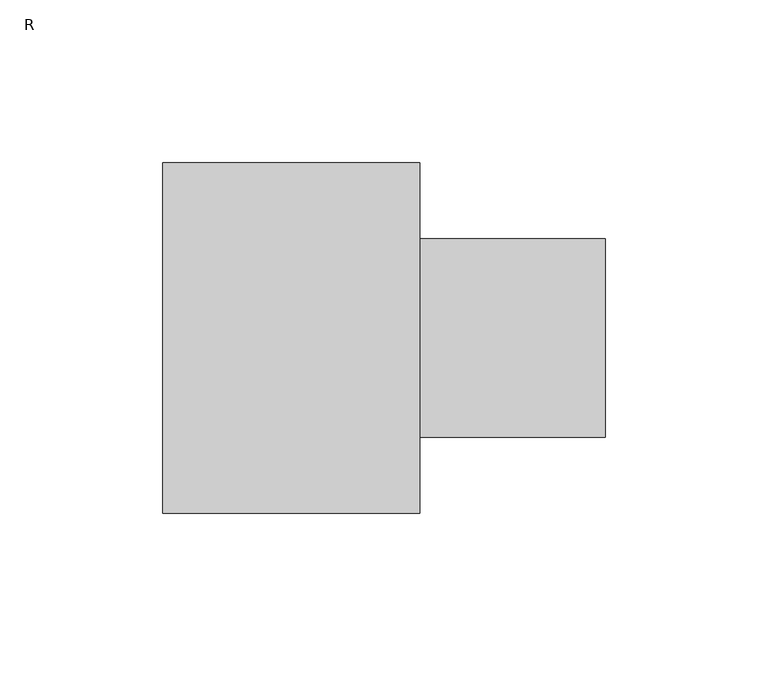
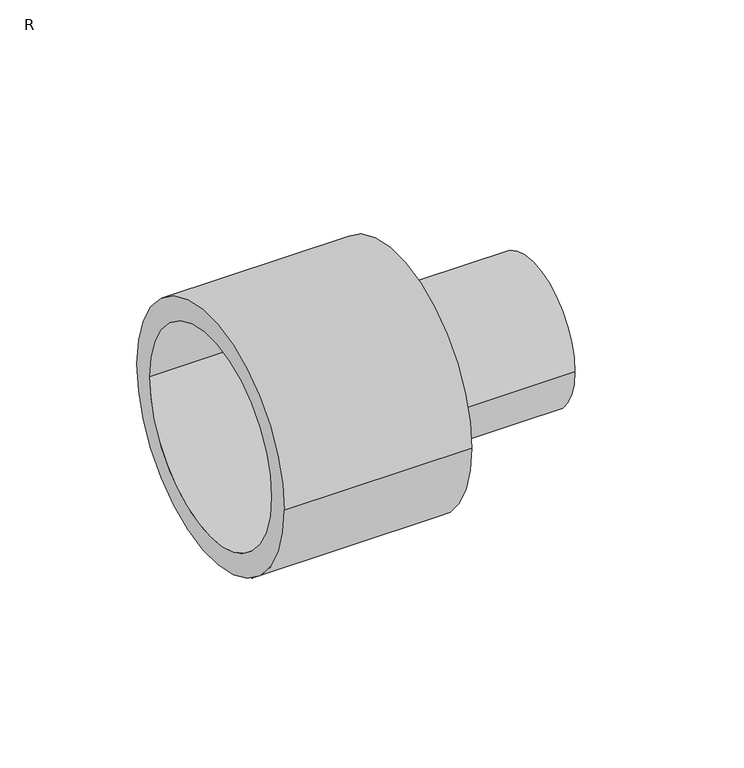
"""IFC4 building model written with IfcOpenShell, lengths in millimetres: pipe fitting geometry, FUSAPEX reducer : R."""

import ifcopenshell
import ifcopenshell.guid

model = None  # the IFC model being written
_history = None  # IfcOwnerHistory: only IFC2X3 demands one
_inside = {}  # id of a spatial element -> (the spatial element, [elements in it])
_under = {}  # id of a project, library or spatial element -> (it, [spatial elements below it])
_declared = {}  # id of a project -> (the project, [libraries it declares])
_typed = {}  # id of a type object -> (the type object, [elements of that type])
_made_of = {}  # id of a material, layer set ... -> (it, [elements and type objects made of it])


def new_model(schema):
    """Start an empty IFC model of exactly this schema.

    Asked for "IFC4X3", IfcOpenShell would pick the latest addendum, in which some entities
    have other attributes; the version numbers below select the first issue.
    IFC2X3 requires an IfcOwnerHistory on every rooted entity: one is made here for all.
    """
    global model, _history
    if schema == "IFC4X3":
        model = ifcopenshell.file(schema_version=(4, 3, 0, 0))
    else:
        model = ifcopenshell.file(schema=schema)
    _inside.clear()
    _under.clear()
    _declared.clear()
    _typed.clear()
    _made_of.clear()
    _history = None
    if model.schema == "IFC2X3":
        org = make("IfcOrganization", Name="unknown")
        user = make(
            "IfcPersonAndOrganization",
            ThePerson=make("IfcPerson", FamilyName="unknown"),
            TheOrganization=org,
        )
        app = make(
            "IfcApplication",
            ApplicationDeveloper=org,
            Version="unknown",
            ApplicationFullName="unknown",
            ApplicationIdentifier="unknown",
        )
        _history = make(
            "IfcOwnerHistory",
            OwningUser=user,
            OwningApplication=app,
            ChangeAction="ADDED",
            CreationDate=0,
        )
    return model


def make(cls, **values):
    """One entity of the class cls with the attributes given. An attribute that is None is left unset."""
    return model.create_entity(
        cls, **{name: value for name, value in values.items() if value is not None}
    )


def rooted(cls, **values):
    """An entity with a GlobalId (a new one), such as an element, a storey or a relation."""
    return make(cls, GlobalId=ifcopenshell.guid.new(), OwnerHistory=_history, **values)


def si_unit(unit_type, name, prefix=None):
    """IfcSIUnit, for example si_unit("LENGTHUNIT", "METRE", prefix="MILLI")."""
    return make("IfcSIUnit", UnitType=unit_type, Prefix=prefix, Name=name)


def assignment(units):
    """IfcUnitAssignment: the units of a project."""
    return None if units is None else make("IfcUnitAssignment", Units=units)


def point(xyz):
    """IfcCartesianPoint."""
    return None if xyz is None else make("IfcCartesianPoint", Coordinates=xyz)


def direction(xyz):
    """IfcDirection."""
    return None if xyz is None else make("IfcDirection", DirectionRatios=xyz)


def frame(location, z_axis=None, x_axis=None):
    """IfcAxis2Placement3D, a coordinate frame: its origin and axes. An axis left out is left unset."""
    return make(
        "IfcAxis2Placement3D",
        Location=point(location),
        Axis=direction(z_axis),
        RefDirection=direction(x_axis),
    )


def origin():
    """The frame at (0, 0, 0) with its axes left unset."""
    return frame((0.0, 0.0, 0.0))


def place(relative_to, where):
    """IfcLocalPlacement: puts the frame where relative to a parent placement (None: the world)."""
    return make(
        "IfcLocalPlacement", PlacementRelTo=relative_to, RelativePlacement=where
    )


def context(
    kind, dimensions, precision=None, world=None, true_north=None, identifier=None
):
    """IfcGeometricRepresentationContext, for example the 3D "Model" context."""
    return make(
        "IfcGeometricRepresentationContext",
        ContextIdentifier=identifier,
        ContextType=kind,
        CoordinateSpaceDimension=dimensions,
        Precision=precision,
        WorldCoordinateSystem=world,
        TrueNorth=true_north,
    )


def project(units=None, contexts=None):
    """IfcProject with its units and contexts."""
    return rooted(
        "IfcProject",
        Name="project",
        RepresentationContexts=contexts,
        UnitsInContext=assignment(units),
    )


def spatial(cls, under=None, at=None, **own):
    """A site, building, storey or space (cls), placed at a placement, below another one or the project."""
    s = rooted(cls, ObjectPlacement=at, **own)
    if under is not None:
        _under.setdefault(under.id(), (under, []))[1].append(s)
    return s


def polyline(points):
    """IfcPolyline through the points."""
    return make("IfcPolyline", Points=[point(p) for p in points])


def circle_curve(where, radius):
    """IfcCircle in the frame where."""
    return make("IfcCircle", Position=where, Radius=radius)


def shape(context_of_items, identifier, shape_type, items):
    """IfcShapeRepresentation: the items that make up one representation, for example the "Body"."""
    return make(
        "IfcShapeRepresentation",
        ContextOfItems=context_of_items,
        RepresentationIdentifier=identifier,
        RepresentationType=shape_type,
        Items=items,
    )


def source(mapping_origin, context_of_items, identifier, shape_type, items):
    """IfcRepresentationMap: a shape defined once, which mapped items show again and again."""
    return make(
        "IfcRepresentationMap",
        MappingOrigin=mapping_origin,
        MappedRepresentation=shape(context_of_items, identifier, shape_type, items),
    )


def transform(
    local_origin,
    x_axis=None,
    y_axis=None,
    z_axis=None,
    scale=None,
    scale2=None,
    scale3=None,
    uniform=True,
):
    """IfcCartesianTransformationOperator3D, or its non-uniform kind. x_axis, y_axis, z_axis: its Axis1, 2, 3."""
    if uniform:
        return make(
            "IfcCartesianTransformationOperator3D",
            Axis1=direction(x_axis),
            Axis2=direction(y_axis),
            LocalOrigin=point(local_origin),
            Scale=scale,
            Axis3=direction(z_axis),
        )
    return make(
        "IfcCartesianTransformationOperator3DnonUniform",
        Axis1=direction(x_axis),
        Axis2=direction(y_axis),
        LocalOrigin=point(local_origin),
        Scale=scale,
        Axis3=direction(z_axis),
        Scale2=scale2,
        Scale3=scale3,
    )


def mapped(mapping_source, mapping_target):
    """IfcMappedItem: shows the shape of a source again, moved by a transform."""
    return make(
        "IfcMappedItem", MappingSource=mapping_source, MappingTarget=mapping_target
    )


def made_of(thing, what):
    """Note that an element or type object is made of a material, layer set ...; save() writes the relation."""
    if what is not None:
        _made_of.setdefault(what.id(), (what, []))[1].append(thing)
    return thing


def element(
    cls,
    number,
    at=None,
    inside=None,
    cuts=None,
    type_object=None,
    material=None,
    context=None,
    identifier="Body",
    shape_type=None,
    held_by="IfcProductDefinitionShape",
    body=None,
    shapes=None,
    **own,
):
    """One element of the class cls, such as IfcWall. Its Tag is "e" and its number.

    at: its placement. inside: the storey or other place that contains it. cuts: it is an
    opening in that element (IfcRelVoidsElement). A single representation is given by context,
    identifier, shape_type and body (its items); several are given by shapes. held_by: the class
    of the entity that holds the representations. save() writes the other relations.
    """
    e = rooted(cls, Tag="e%d" % number, ObjectPlacement=at, **own)
    if body is not None:
        shapes = [shape(context, identifier, shape_type, body)]
    if shapes is not None:
        e.Representation = make(held_by, Representations=shapes)
    if inside is not None:
        _inside.setdefault(inside.id(), (inside, []))[1].append(e)
    if cuts is not None:
        rooted(
            "IfcRelVoidsElement", RelatingBuildingElement=cuts, RelatedOpeningElement=e
        )
    if type_object is not None:
        _typed.setdefault(type_object.id(), (type_object, []))[1].append(e)
    return made_of(e, material)


def aggregate(whole, parts):
    """IfcRelAggregates: a whole, such as a stair, and the parts it consists of."""
    return rooted("IfcRelAggregates", RelatingObject=whole, RelatedObjects=parts)


def save(model, path):
    """Write the relations noted so far, then the file.

    IfcRelAggregates (storeys below a building ...), IfcRelContainedInSpatialStructure (elements
    in a storey), IfcRelDefinesByType, IfcRelAssociatesMaterial and IfcRelDeclares: one each for
    every whole, place, type object, material and project.
    """
    for whole, parts in _under.values():
        aggregate(whole, parts)
    for where, things in _inside.values():
        rooted(
            "IfcRelContainedInSpatialStructure",
            RelatedElements=things,
            RelatingStructure=where,
        )
    for kind, things in _typed.values():
        rooted("IfcRelDefinesByType", RelatedObjects=things, RelatingType=kind)
    for what, things in _made_of.values():
        rooted("IfcRelAssociatesMaterial", RelatedObjects=things, RelatingMaterial=what)
    for by, libraries in _declared.values():
        rooted("IfcRelDeclares", RelatingContext=by, RelatedDefinitions=libraries)
    model.write(path)


def plane_surface(at):
    """IfcPlane: the flat surface through the origin of the frame at, square to its z axis."""
    return make("IfcPlane", Position=at)


def cylinder_surface(at, radius):
    """IfcCylindricalSurface: all points at the distance radius from the z axis of the frame at."""
    return make("IfcCylindricalSurface", Position=at, Radius=radius)


def revolved_surface(curve, axis_point, axis_direction):
    """IfcSurfaceOfRevolution: the curve turned about the line through axis_point along axis_direction."""
    return make(
        "IfcSurfaceOfRevolution",
        SweptCurve=make("IfcArbitraryOpenProfileDef", ProfileType="CURVE", Curve=curve),
        AxisPosition=make("IfcAxis1Placement", Location=point(axis_point), Axis=direction(axis_direction)),
    )


def advanced_brep(points, edges, surfaces, faces):
    """IfcAdvancedBrep: a solid bounded by faces that lie on surfaces and meet in shared edges.

    An edge is (start, end): straight between two places in points (the first is 0);
    or (start, end, curve); or (start, end, curve, False) where it runs against its curve.
    A face is (place in surfaces, loops), or (place, loops, False) where it looks against
    its surface's normal. A loop lists edges by number (the first is 1), with a minus sign
    where the edge is run from its end to its start. The first loop is the outer one.
    """
    corners = [point(p) for p in points]
    vertices = [make("IfcVertexPoint", VertexGeometry=c) for c in corners]
    made = []
    for start, end, *more in edges:
        made.append(
            make(
                "IfcEdgeCurve",
                EdgeStart=vertices[start],
                EdgeEnd=vertices[end],
                EdgeGeometry=more[0] if more else make("IfcPolyline", Points=[corners[start], corners[end]]),
                SameSense=more[1] if len(more) > 1 else True,
            )
        )
    hull = []
    for where, loops, *sense in faces:
        bounds = []
        for j, loop in enumerate(loops):
            ring = [make("IfcOrientedEdge", EdgeElement=made[abs(k) - 1], Orientation=k > 0) for k in loop]
            bounds.append(
                make(
                    "IfcFaceOuterBound" if j == 0 else "IfcFaceBound",
                    Bound=make("IfcEdgeLoop", EdgeList=ring),
                    Orientation=True,
                )
            )
        hull.append(make("IfcAdvancedFace", Bounds=bounds, FaceSurface=surfaces[where], SameSense=sense[0] if sense else True))
    return make("IfcAdvancedBrep", Outer=make("IfcClosedShell", CfsFaces=hull))


def r_69f262a2(model_context):
    return source(origin(), model_context, "Body", "AdvancedBrep", [
        advanced_brep(
        [(-79.0, 44.4, 0.0), (-79.0, -44.4, 0.0), (-13.0, -44.4, 0.0), (-13.0, 44.4, 0.0), (0.0, 53.85, 0.0), (0.0, -53.85, 0.0), (-79.0, -53.85, 0.0), (-79.0, 53.85, 0.0), (57.0, 30.55, 0.0), (57.0, -30.55, 0.0), (0.0, -30.55, 0.0), (0.0, 30.55, 0.0), (-13.0, 25.25, 0.0), (-13.0, -25.25, 0.0), (57.0, -25.25, 0.0), (57.0, 25.25, 0.0)],
        [
            (0, 1, circle_curve(frame((-79.0, 0.0, 0.0), z_axis=(-1.0, 0.0, 0.0), x_axis=(0.0, -1.0, 0.0)), 44.4)),
            (1, 2),
            (2, 3, circle_curve(frame((-13.0, 0.0, 0.0), z_axis=(1.0, 0.0, 0.0), x_axis=(0.0, -1.0, 0.0)), 44.4)),
            (3, 0),
            (4, 5, circle_curve(frame((0.0, 0.0, 0.0), z_axis=(-1.0, 0.0, 0.0), x_axis=(0.0, -1.0, 0.0)), 53.85)),
            (5, 6),
            (6, 7, circle_curve(frame((-79.0, 0.0, 0.0), z_axis=(1.0, 0.0, 0.0), x_axis=(0.0, -1.0, 0.0)), 53.85)),
            (7, 4),
            (8, 9, circle_curve(frame((57.0, 0.0, 0.0), z_axis=(-1.0, 0.0, 0.0), x_axis=(0.0, -1.0, 0.0)), 30.55)),
            (9, 10),
            (10, 11, circle_curve(frame((0.0, 0.0, 0.0), z_axis=(1.0, 0.0, 0.0), x_axis=(0.0, -1.0, 0.0)), 30.55)),
            (11, 8),
            (12, 13, circle_curve(frame((-13.0, 0.0, 0.0), z_axis=(-1.0, 0.0, 0.0), x_axis=(0.0, -1.0, 0.0)), 25.25)),
            (13, 14),
            (14, 15, circle_curve(frame((57.0, 0.0, 0.0), z_axis=(1.0, 0.0, 0.0), x_axis=(0.0, -1.0, 0.0)), 25.25)),
            (15, 12),
            (1, 0, circle_curve(frame((-79.0, 0.0, 0.0), z_axis=(-1.0, 0.0, 0.0), x_axis=(0.0, 1.0, 0.0)), 44.4)),
            (3, 2, circle_curve(frame((-13.0, 0.0, 0.0), z_axis=(1.0, 0.0, 0.0), x_axis=(0.0, 1.0, 0.0)), 44.4)),
            (6, 7, circle_curve(frame((-79.0, 0.0, 0.0), z_axis=(-1.0, 0.0, 0.0), x_axis=(0.0, 1.0, 0.0)), 53.85)),
            (5, 4, circle_curve(frame((0.0, 0.0, 0.0), z_axis=(-1.0, 0.0, 0.0), x_axis=(0.0, 1.0, 0.0)), 53.85)),
            (10, 11, circle_curve(frame((0.0, 0.0, 0.0), z_axis=(-1.0, 0.0, 0.0), x_axis=(0.0, 1.0, 0.0)), 30.55)),
            (9, 8, circle_curve(frame((57.0, 0.0, 0.0), z_axis=(-1.0, 0.0, 0.0), x_axis=(0.0, 1.0, 0.0)), 30.55)),
            (14, 15, circle_curve(frame((57.0, 0.0, 0.0), z_axis=(-1.0, 0.0, 0.0), x_axis=(0.0, 1.0, 0.0)), 25.25)),
            (13, 12, circle_curve(frame((-13.0, 0.0, 0.0), z_axis=(-1.0, 0.0, 0.0), x_axis=(0.0, 1.0, 0.0)), 25.25)),
        ],
        [
            revolved_surface(polyline([(-13.0, -44.4, 0.0), (-79.0, -44.4, 0.0)]), (0.0, 0.0, 0.0), (1.0, 0.0, 0.0)),
            cylinder_surface(frame((0.0, 0.0, 0.0), z_axis=(1.0, 0.0, 0.0), x_axis=(0.0, -1.0, 0.0)), 53.85),
            cylinder_surface(frame((0.0, 0.0, 0.0), z_axis=(1.0, 0.0, 0.0), x_axis=(0.0, -1.0, 0.0)), 30.55),
            revolved_surface(polyline([(57.0, -25.25, 0.0), (-13.0, -25.25, 0.0)]), (0.0, 0.0, 0.0), (1.0, 0.0, 0.0)),
            revolved_surface(polyline([(-13.0, 44.4, 0.0), (-79.0, 44.4, 0.0)]), (0.0, 0.0, 0.0), (1.0, 0.0, 0.0)),
            plane_surface(frame((-79.0, 0.0, 0.0), z_axis=(-1.0, 0.0, 0.0), x_axis=(0.0, 1.0, 0.0))),
            cylinder_surface(frame((0.0, 0.0, 0.0), z_axis=(1.0, 0.0, 0.0), x_axis=(0.0, 1.0, 0.0)), 53.85),
            plane_surface(frame((0.0, 0.0, 0.0), z_axis=(1.0, 0.0, 0.0), x_axis=(0.0, 1.0, 0.0))),
            cylinder_surface(frame((0.0, 0.0, 0.0), z_axis=(1.0, 0.0, 0.0), x_axis=(0.0, 1.0, 0.0)), 30.55),
            plane_surface(frame((57.0, 0.0, 0.0), z_axis=(1.0, 0.0, 0.0), x_axis=(0.0, 1.0, 0.0))),
            revolved_surface(polyline([(57.0, 25.25, 0.0), (-13.0, 25.25, 0.0)]), (0.0, 0.0, 0.0), (1.0, 0.0, 0.0)),
            plane_surface(frame((-13.0, 0.0, 0.0), z_axis=(-1.0, 0.0, 0.0), x_axis=(0.0, 1.0, 0.0))),
        ],
        [
            (0, [[1, 2, 3, 4]]),
            (1, [[5, 6, 7, 8]]),
            (2, [[9, 10, 11, 12]]),
            (3, [[13, 14, 15, 16]]),
            (4, [[17, -4, 18, -2]]),
            (5, [[19, -7], [-17, -1]]),
            (6, [[20, -8, -19, -6]]),
            (7, [[-20, -5], [21, -11]]),
            (8, [[22, -12, -21, -10]]),
            (9, [[-22, -9], [23, -15]]),
            (10, [[24, -16, -23, -14]]),
            (11, [[-18, -3], [-24, -13]]),
        ],
    ),
    ])


if __name__ == "__main__":
    model = new_model("IFC4")
    model_context = context("Model", 3, world=origin())
    ifc_project = project(units=[si_unit("LENGTHUNIT", "METRE", prefix="MILLI")], contexts=[model_context])
    site = spatial("IfcSite", under=ifc_project)
    building = spatial("IfcBuilding", under=site)
    placement = place(None, origin())
    r_shape = r_69f262a2(model_context)
    element("IfcPipeFitting", 1, ObjectType="FUSAPEX reducer : R", at=placement, inside=building, context=model_context, shape_type="MappedRepresentation", body=[
        mapped(r_shape, transform((0.0, 0.0, 0.0), x_axis=(1.0, 0.0, 0.0), y_axis=(0.0, 1.0, 0.0), z_axis=(0.0, 0.0, 1.0))),
    ])
    save(model, "model.ifc")
